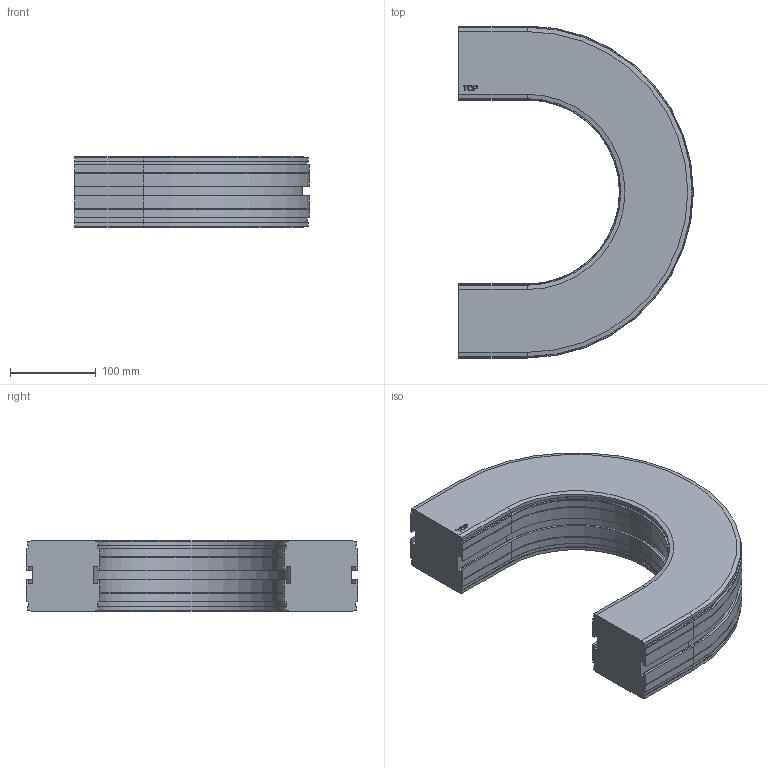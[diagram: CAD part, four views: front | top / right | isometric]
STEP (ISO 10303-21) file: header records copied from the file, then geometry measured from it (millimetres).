
FILE_DESCRIPTION((''),'2;1');
FILE_NAME('C:\Vault Klient\Projekt\Koncept konstruktion\Serie 830 Balk\830-5120.stp','2009-11-27T08:15:48',('Mathias'),(''),'Autodesk Inventor 2010','Autodesk Inventor 2010','');
FILE_SCHEMA(('AUTOMOTIVE_DESIGN { 1 0 10303 214 1 1 1 1 }'));
Length unit declared in the file: millimetre
Products named in the file (1): 830-5120
Bounding box: 273 x 386 x 81.5 mm (x, y, z)
Volume: 4195769.7 mm3; surface area: 271223.1 mm2
Topology: 1 solids, 1 shells, 169 faces, 446 edges, 284 vertices
Faces by surface type: plane 109, cylinder 30, bspline 14, cone 12, torus 4
Entity records: 5295 total; most frequent: CARTESIAN_POINT 1094, ORIENTED_EDGE 892, DIRECTION 802, EDGE_CURVE 446, VECTOR 346, LINE 346, VERTEX_POINT 284, AXIS2_PLACEMENT_3D 228
